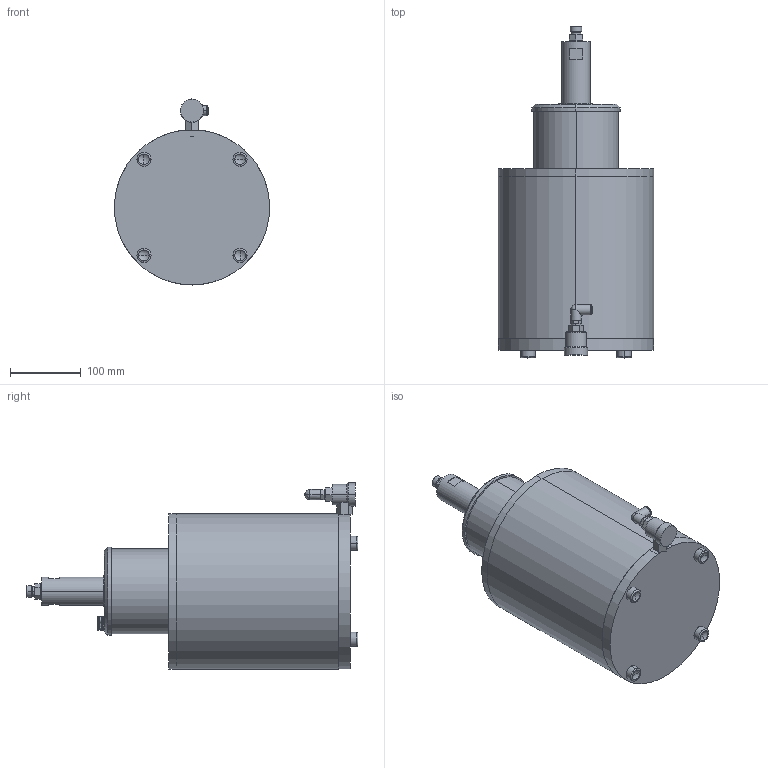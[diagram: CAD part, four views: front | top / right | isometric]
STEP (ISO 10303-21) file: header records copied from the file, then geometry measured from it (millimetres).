
FILE_DESCRIPTION (( 'STEP AP203' ), '1' );
FILE_NAME ('41250.STEP', '2013-07-03T13:45:46', ( '' ), ( '' ), 'SwSTEP 2.0', 'SolidWorks 2011', '' );
FILE_SCHEMA (( 'CONFIG_CONTROL_DESIGN' ));
Length unit declared in the file: millimetre
Products named in the file (1): 41250
Bounding box: 220 x 470 x 263.5 mm (x, y, z)
Volume: 3231833.8 mm3; surface area: 675608.6 mm2
Topology: 20 solids, 20 shells, 588 faces, 1438 edges, 913 vertices
Faces by surface type: cylinder 251, plane 193, cone 94, torus 30, bspline 12, sphere 8
Entity records: 19778 total; most frequent: CARTESIAN_POINT 5578, DIRECTION 3147, ORIENTED_EDGE 2864, EDGE_CURVE 1432, AXIS2_PLACEMENT_3D 1312, VERTEX_POINT 913, CIRCLE 735, EDGE_LOOP 653
